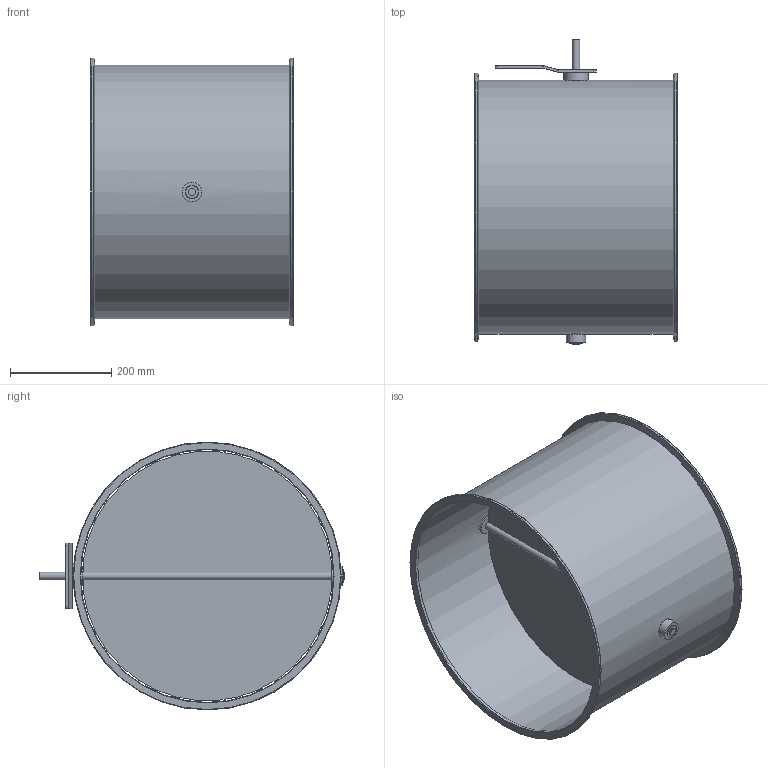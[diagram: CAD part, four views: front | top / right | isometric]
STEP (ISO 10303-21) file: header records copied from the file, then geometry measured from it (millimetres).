
FILE_DESCRIPTION(/* description */ (''),/* implementation_level */ '2;1');
FILE_NAME(/* name */ 'EA110-80B__500_L400_Belimo_Typ_GM.stp',/* time_stamp */ '2017-12-07T10:51:28+01:00',/* author */ (''),/* organization */ (''),/* preprocessor_version */ 'ST-DEVELOPER v11',/* originating_system */ 'SIEMENS UGS NX 6.0',/* authorisation */ '');
FILE_SCHEMA (('CONFIG_CONTROL_DESIGN'));
Length unit declared in the file: millimetre
Products named in the file (1): gars5544kx8r
Bounding box: 400 x 604 x 530 mm (x, y, z)
Volume: 1459660 mm3; surface area: 1832558.7 mm2
Topology: 8 solids, 8 shells, 78 faces, 164 edges, 104 vertices
Faces by surface type: plane 36, cylinder 34, torus 6, cone 2
Full cylindrical faces by diameter (mm): 6.1 x6, 15 x3, 25 x3, 25.85 x2, 26 x2, 38 x3, 49 x1, 500 x1, 502 x1, 530 x2
Entity records: 2028 total; most frequent: CARTESIAN_POINT 363, DIRECTION 346, ORIENTED_EDGE 244, AXIS2_PLACEMENT_3D 149, EDGE_LOOP 140, EDGE_CURVE 122, FACE_BOUND 110, VERTEX_POINT 94
